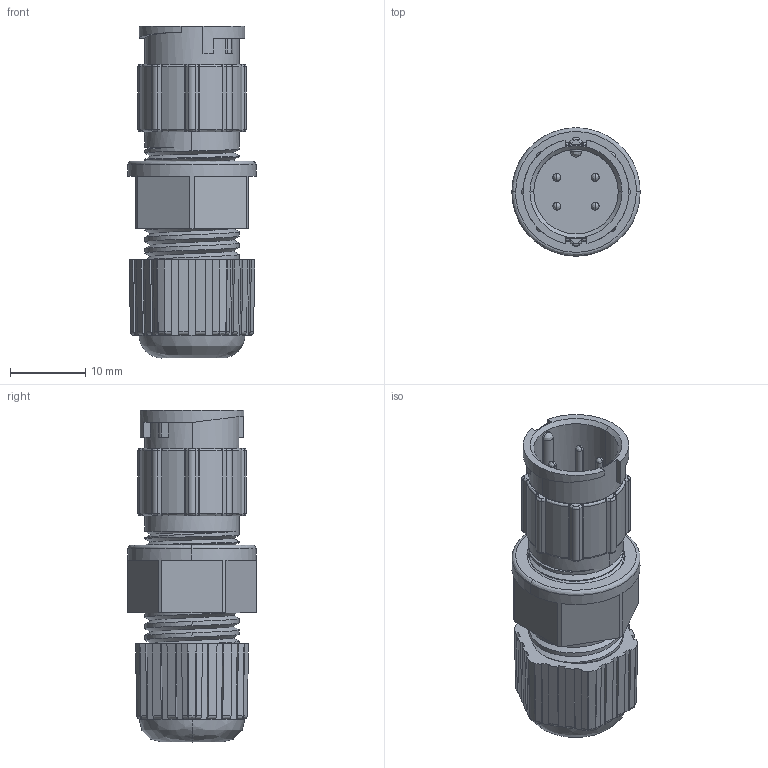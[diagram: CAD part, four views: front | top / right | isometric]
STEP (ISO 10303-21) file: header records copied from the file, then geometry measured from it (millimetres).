
FILE_DESCRIPTION (( 'STEP AP203' ), '1' );
FILE_NAME ('868-04B-103KIT.STEP', '2025-12-17T18:13:04', ( '' ), ( '' ), 'SwSTEP 2.0', 'SolidWorks 2020', '' );
FILE_SCHEMA (( 'CONFIG_CONTROL_DESIGN' ));
Length unit declared in the file: millimetre
Products named in the file (1): 868-04B-103KIT
Bounding box: 17 x 17 x 44 mm (x, y, z)
Volume: 4668.6 mm3; surface area: 5510.1 mm2
Topology: 1 solids, 1 shells, 590 faces, 1507 edges, 921 vertices
Faces by surface type: cylinder 216, plane 186, bspline 142, cone 46
Entity records: 30871 total; most frequent: CARTESIAN_POINT 18241, ORIENTED_EDGE 2980, DIRECTION 2108, EDGE_CURVE 1490, VERTEX_POINT 921, AXIS2_PLACEMENT_3D 782, EDGE_LOOP 613, ADVANCED_FACE 590
